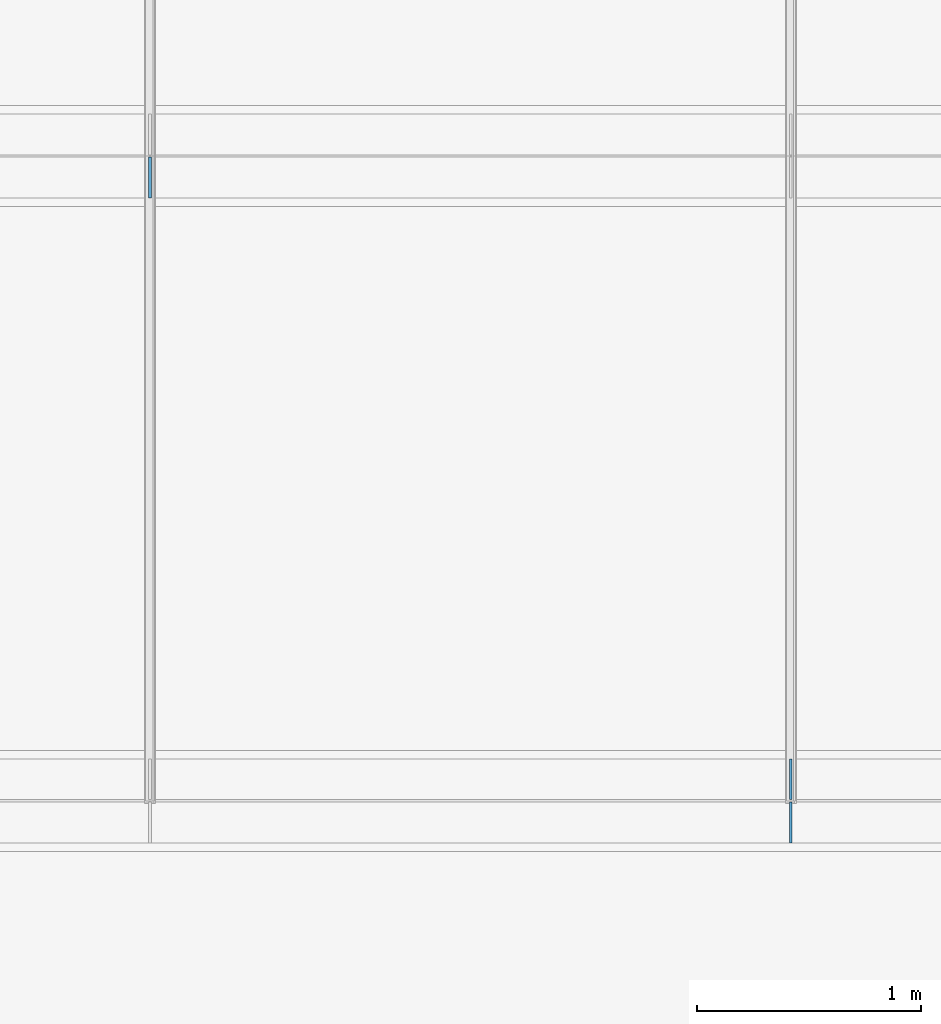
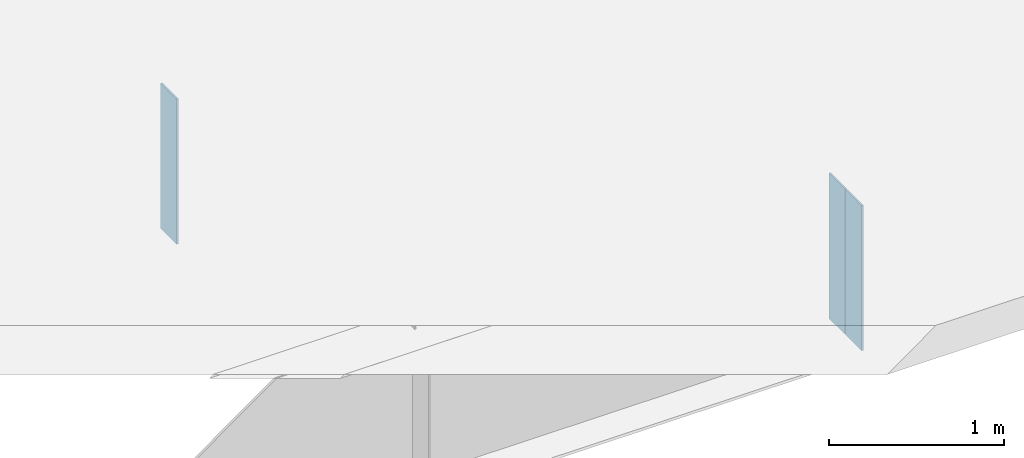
# One storey, part 4 of 12: 3 plates.
"""IFC4 building model written with IfcOpenShell, lengths in metres."""

from ifc_helpers import new_model, si_unit, frame, origin, origin_with_axes, origin_2d_with_axis, place, context, subcontext, project, spatial, rectangle, extrude, element, save


model = new_model("IFC4")

# Units and contexts
model_context = context("Model", 3, precision=1e-05, world=origin())
body_context = subcontext(model_context, "Body", "Model", "MODEL_VIEW")
ifc_project = project(units=[si_unit("LENGTHUNIT", "METRE"), si_unit("AREAUNIT", "SQUARE_METRE"), si_unit("VOLUMEUNIT", "CUBIC_METRE"), si_unit("PLANEANGLEUNIT", "RADIAN")], contexts=[model_context])

# Site, building, storey
site_placement = place(None, origin_with_axes())
site = spatial("IfcSite", under=ifc_project, at=site_placement, Name="Default Site")
building_placement = place(site_placement, origin_with_axes())
building = spatial("IfcBuilding", under=site, at=building_placement, Name="Bridge Structure")
storey_placement = place(building_placement, origin_with_axes())
storey = spatial("IfcBuildingStorey", under=building, at=storey_placement, Name="Superstructure")

# Plates
for number, where, z_axis, x_axis, name in (
    (1, (11.428, -4.2162500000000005, -0.506), (0.0, 0.0, 1.0), (1.0, 0.0, 0.0), "Intermediate Stiffener 1"),
    (2, (11.428, -4.40875, -0.506), (0.0, 0.0, 1.0), (1.0, 0.0, 0.0), "Intermediate Stiffener 1"),
    (3, (8.571, -1.53375, -0.506), (0.0, 0.0, 1.0), (1.0, 0.0, 0.0), "Intermediate Stiffener 2"),
):
    element("IfcPlate", number, at=place(storey_placement, frame(where, z_axis=z_axis, x_axis=x_axis)), inside=storey, Name=name, context=body_context, shape_type="SweptSolid", body=[
        extrude(rectangle(XDim=0.012, YDim=0.1825, at=origin_2d_with_axis()), origin_with_axes(), (0.0, 0.0, 1.0), 1.012),
    ])

save(model, "model.ifc")
